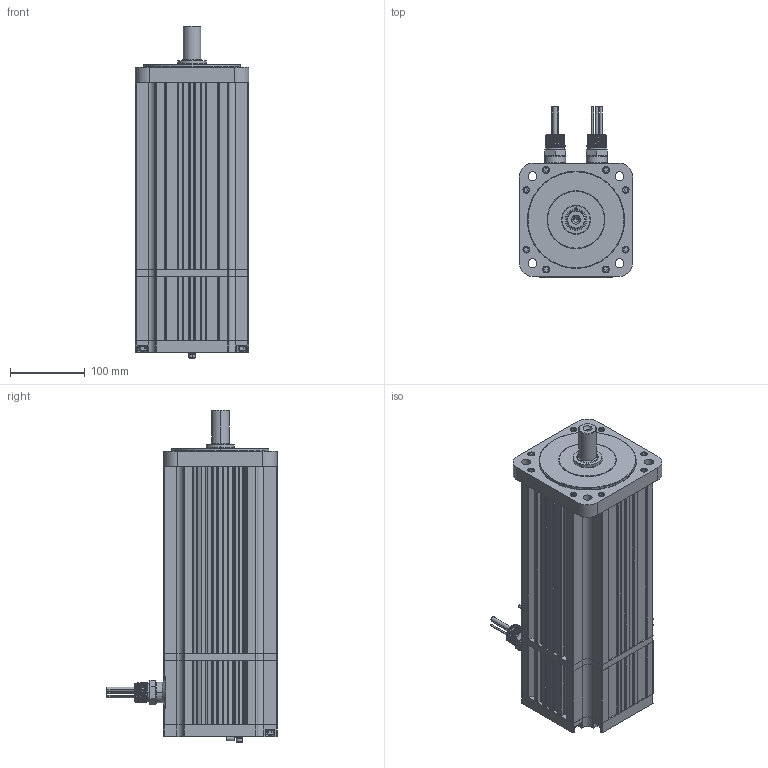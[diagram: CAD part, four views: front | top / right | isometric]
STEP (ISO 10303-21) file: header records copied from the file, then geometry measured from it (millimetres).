
FILE_DESCRIPTION (( 'STEP AP203' ), '1' );
FILE_NAME ('M463-KNS0-CT08.STEP', '2018-05-21T13:12:27', ( '' ), ( '' ), 'SwSTEP 2.0', 'SolidWorks 2016', '' );
FILE_SCHEMA (( 'CONFIG_CONTROL_DESIGN' ));
Products named in the file (1): M463-KNS0-CT08
Bounding box: 152.4 x 228.22 x 445.49 mm (x, y, z)
Volume: 3849096 mm3; surface area: 745007.5 mm2
Topology: 52 solids, 52 shells, 2065 faces, 4962 edges, 3112 vertices
Faces by surface type: cylinder 853, plane 713, cone 342, torus 119, bspline 38
Entity records: 76086 total; most frequent: CARTESIAN_POINT 27044, DIRECTION 10762, ORIENTED_EDGE 9768, EDGE_CURVE 4884, AXIS2_PLACEMENT_3D 4171, VERTEX_POINT 3112, LINE 2420, VECTOR 2420
